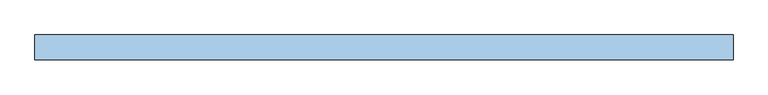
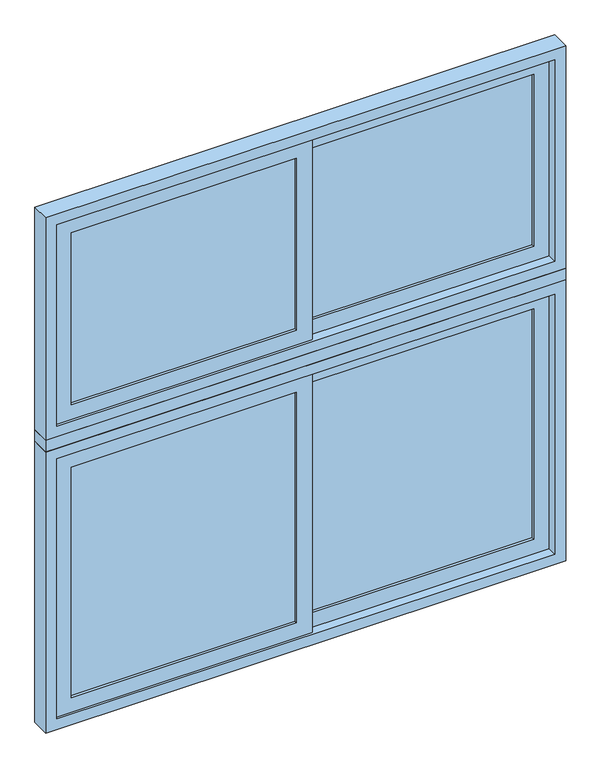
"""IFC4 building model written with IfcOpenShell, lengths in millimetres: window geometry, A13 Ventana_Corrediza 2 hojas Antepecho : A13 Ventana_Corrediza_2 hojas 210x210 AP90."""

from ifc_helpers import new_model, si_unit, frame, origin, place, context, project, spatial, polyline, outline, extrude, source, transform, mapped, element, save


def window_ea4ac452(model_context):
    return source(origin(), model_context, "Body", "SweptSolid", [
        extrude(outline(polyline([(-31.5, 3.0), (-942.0, 3.0), (-942.0, 9.0), (-31.5, 9.0), (-31.5, 3.0)])), frame((0.0, 0.0, 2258.0), z_axis=(0.0, 0.0, 1.0), x_axis=(1.0, 0.0, 0.0)), (0.0, 0.0, 1.0), 734.0),
        extrude(outline(polyline([(-31.5, 3.0), (-942.0, 3.0), (-942.0, 9.0), (-31.5, 9.0), (-31.5, 3.0)])), frame((0.0, 0.0, 1008.0), z_axis=(0.0, 0.0, 1.0), x_axis=(1.0, 0.0, 0.0)), (0.0, 0.0, 1.0), 984.0),
        extrude(outline(polyline([(942.0, 31.0), (31.5, 31.0), (31.5, 37.0), (942.0, 37.0), (942.0, 31.0)])), frame((0.0, 0.0, 2258.0), z_axis=(0.0, 0.0, 1.0), x_axis=(1.0, 0.0, 0.0)), (0.0, 0.0, 1.0), 734.0),
        extrude(outline(polyline([(942.0, 31.0), (31.5, 31.0), (31.5, 37.0), (942.0, 37.0), (942.0, 31.0)])), frame((0.0, 0.0, 1008.0), z_axis=(0.0, 0.0, 1.0), x_axis=(1.0, 0.0, 0.0)), (0.0, 0.0, 1.0), 984.0),
        extrude(outline(polyline([(945.0, -1005.0), (945.0, 31.5), (2055.0, 31.5), (2055.0, -1005.0), (945.0, -1005.0)]), holes=[polyline([(1008.0, -942.0), (1992.0, -942.0), (1992.0, -31.5), (1008.0, -31.5), (1008.0, -942.0)])]), frame((0.0, -8.0, 0.0), z_axis=(0.0, 1.0, 0.0), x_axis=(0.0, 0.0, 1.0)), (0.0, 0.0, 1.0), 28.0),
        extrude(outline(polyline([(3055.0, -1005.0), (2195.0, -1005.0), (2195.0, 31.5), (3055.0, 31.5), (3055.0, -1005.0)]), holes=[polyline([(2258.0, -942.0), (2992.0, -942.0), (2992.0, -31.5), (2258.0, -31.5), (2258.0, -942.0)])]), frame((0.0, -8.0, 0.0), z_axis=(0.0, 1.0, 0.0), x_axis=(0.0, 0.0, 1.0)), (0.0, 0.0, 1.0), 28.0),
        extrude(outline(polyline([(2055.0, 1005.0), (2055.0, -31.5), (945.0, -31.5), (945.0, 1005.0), (2055.0, 1005.0)]), holes=[polyline([(1992.0, 31.5), (1992.0, 942.0), (1008.0, 942.0), (1008.0, 31.5), (1992.0, 31.5)])]), frame((0.0, 20.0, 0.0), z_axis=(0.0, 1.0, 0.0), x_axis=(0.0, 0.0, 1.0)), (0.0, 0.0, 1.0), 28.0),
        extrude(outline(polyline([(2195.0, -31.5), (2195.0, 1005.0), (3055.0, 1005.0), (3055.0, -31.5), (2195.0, -31.5)]), holes=[polyline([(2992.0, 31.5), (2992.0, 942.0), (2258.0, 942.0), (2258.0, 31.5), (2992.0, 31.5)])]), frame((0.0, 20.0, 0.0), z_axis=(0.0, 1.0, 0.0), x_axis=(0.0, 0.0, 1.0)), (0.0, 0.0, 1.0), 28.0),
        extrude(outline(polyline([(2100.0, -1050.0), (900.0, -1050.0), (900.0, 1050.0), (2100.0, 1050.0), (2100.0, -1050.0)]), holes=[polyline([(2055.0, -1005.0), (2055.0, 1005.0), (945.0, 1005.0), (945.0, -1005.0), (2055.0, -1005.0)])]), frame((0.0, -17.5, 0.0), z_axis=(0.0, 1.0, 0.0), x_axis=(0.0, 0.0, 1.0)), (0.0, 0.0, 1.0), 75.0),
        extrude(outline(polyline([(3100.0, -1050.0), (2150.0, -1050.0), (2150.0, 1050.0), (3100.0, 1050.0), (3100.0, -1050.0)]), holes=[polyline([(3055.0, -1005.0), (3055.0, 1005.0), (2195.0, 1005.0), (2195.0, -1005.0), (3055.0, -1005.0)])]), frame((0.0, -17.5, 0.0), z_axis=(0.0, 1.0, 0.0), x_axis=(0.0, 0.0, 1.0)), (0.0, 0.0, 1.0), 75.0),
        extrude(outline(polyline([(1050.0, -17.5), (-1050.0, -17.5), (-1050.0, 57.5), (1050.0, 57.5), (1050.0, -17.5)])), frame((0.0, 0.0, 2100.0), z_axis=(0.0, 0.0, 1.0), x_axis=(1.0, 0.0, 0.0)), (0.0, 0.0, 1.0), 50.0),
    ])


if __name__ == "__main__":
    model = new_model("IFC4")
    model_context = context("Model", 3, world=origin())
    ifc_project = project(units=[si_unit("LENGTHUNIT", "METRE", prefix="MILLI")], contexts=[model_context])
    site = spatial("IfcSite", under=ifc_project)
    building = spatial("IfcBuilding", under=site)
    placement = place(None, origin())
    window_shape = window_ea4ac452(model_context)
    element("IfcWindow", 1, ObjectType="A13 Ventana_Corrediza 2 hojas Antepecho : A13 Ventana_Corrediza_2 hojas 210x210 AP90", at=placement, inside=building, context=model_context, shape_type="MappedRepresentation", body=[
        mapped(window_shape, transform((0.0, 0.0, 0.0), x_axis=(1.0, 0.0, 0.0), y_axis=(0.0, 1.0, 0.0), z_axis=(0.0, 0.0, 1.0))),
    ])
    save(model, "model.ifc")
